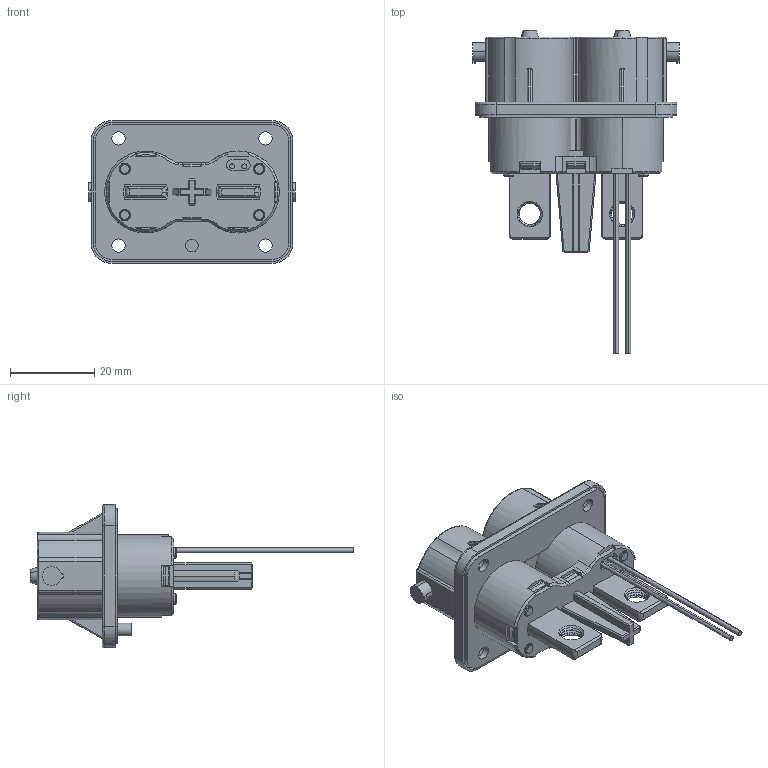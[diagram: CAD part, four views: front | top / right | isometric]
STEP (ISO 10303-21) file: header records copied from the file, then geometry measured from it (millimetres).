
FILE_DESCRIPTION (( 'STEP AP203' ), '1' );
FILE_NAME ('PL082X-121-10M6 CD.STEP', '2023-11-29T07:07:35', ( '' ), ( '' ), 'SwSTEP 2.0', 'SolidWorks 2018', '' );
FILE_SCHEMA (( 'CONFIG_CONTROL_DESIGN' ));
Length unit declared in the file: millimetre
Products named in the file (1): PL082X-121-10M6 CD
Bounding box: 49 x 77 x 34 mm (x, y, z)
Volume: 19984.5 mm3; surface area: 13111.6 mm2
Topology: 3 solids, 4 shells, 732 faces, 1972 edges, 1267 vertices
Faces by surface type: plane 349, cylinder 246, cone 77, torus 44, bspline 12, sphere 4
Entity records: 25883 total; most frequent: CARTESIAN_POINT 7257, ORIENTED_EDGE 3928, DIRECTION 3905, EDGE_CURVE 1964, AXIS2_PLACEMENT_3D 1410, VERTEX_POINT 1263, LINE 1085, VECTOR 1085
